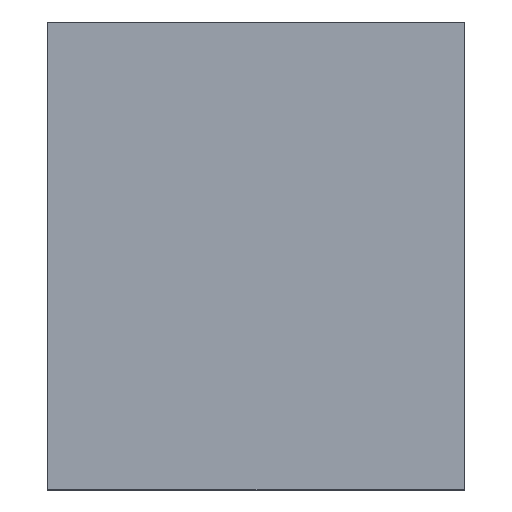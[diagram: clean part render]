
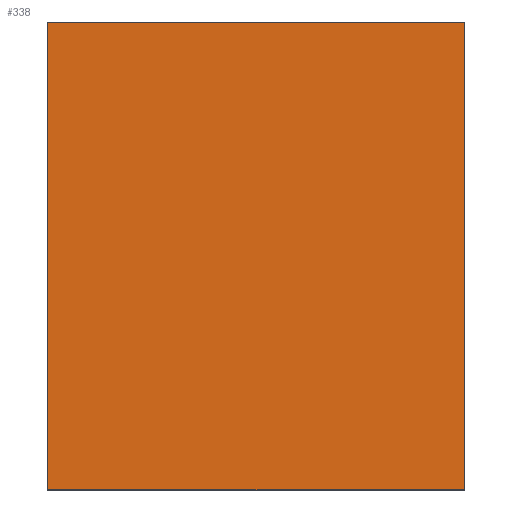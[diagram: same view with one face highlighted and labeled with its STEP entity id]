
A CAD part, top view. The second image highlights one B-rep face of the part: STEP entity #338.
In plain terms, the highlighted planar face has unit normal (0, 0, 1).
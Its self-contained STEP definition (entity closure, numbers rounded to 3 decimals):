
#24 = VERTEX_POINT('',#25);
#25 = CARTESIAN_POINT('',(-643.,-184.913,0.));
#32 = PLANE('',#33);
#33 = AXIS2_PLACEMENT_3D('',#34,#35,#36);
#34 = CARTESIAN_POINT('',(-643.,-184.913,-3.));
#35 = DIRECTION('',(1.,0.,-0.));
#36 = DIRECTION('',(0.,0.,1.));
#44 = PLANE('',#45);
#45 = AXIS2_PLACEMENT_3D('',#46,#47,#48);
#46 = CARTESIAN_POINT('',(-643.,-184.913,-3.));
#47 = DIRECTION('',(-0.,1.,0.));
#48 = DIRECTION('',(0.,0.,1.));
#85 = VERTEX_POINT('',#86);
#86 = CARTESIAN_POINT('',(-643.,-48.913,0.));
#100 = PLANE('',#101);
#101 = AXIS2_PLACEMENT_3D('',#102,#103,#104);
#102 = CARTESIAN_POINT('',(-643.,-48.913,-3.));
#103 = DIRECTION('',(-0.,1.,0.));
#104 = DIRECTION('',(0.,0.,1.));
#112 = EDGE_CURVE('',#24,#85,#113,.T.);
#113 = SURFACE_CURVE('',#114,(#118,#125),.PCURVE_S1.);
#114 = LINE('',#115,#116);
#115 = CARTESIAN_POINT('',(-643.,-184.913,0.));
#116 = VECTOR('',#117,1.);
#117 = DIRECTION('',(-0.,1.,0.));
#118 = PCURVE('',#32,#119);
#119 = DEFINITIONAL_REPRESENTATION('',(#120),#124);
#120 = LINE('',#121,#122);
#121 = CARTESIAN_POINT('',(3.,0.));
#122 = VECTOR('',#123,1.);
#123 = DIRECTION('',(0.,-1.));
#124 = ( GEOMETRIC_REPRESENTATION_CONTEXT(2) 
PARAMETRIC_REPRESENTATION_CONTEXT() REPRESENTATION_CONTEXT('2D SPACE',''
  ) );
#125 = PCURVE('',#126,#131);
#126 = PLANE('',#127);
#127 = AXIS2_PLACEMENT_3D('',#128,#129,#130);
#128 = CARTESIAN_POINT('',(-643.,-184.913,0.));
#129 = DIRECTION('',(0.,0.,1.));
#130 = DIRECTION('',(1.,0.,-0.));
#131 = DEFINITIONAL_REPRESENTATION('',(#132),#136);
#132 = LINE('',#133,#134);
#133 = CARTESIAN_POINT('',(0.,0.));
#134 = VECTOR('',#135,1.);
#135 = DIRECTION('',(0.,1.));
#136 = ( GEOMETRIC_REPRESENTATION_CONTEXT(2) 
PARAMETRIC_REPRESENTATION_CONTEXT() REPRESENTATION_CONTEXT('2D SPACE',''
  ) );
#144 = VERTEX_POINT('',#145);
#145 = CARTESIAN_POINT('',(-522.,-184.913,0.));
#152 = PLANE('',#153);
#153 = AXIS2_PLACEMENT_3D('',#154,#155,#156);
#154 = CARTESIAN_POINT('',(-522.,-184.913,-3.));
#155 = DIRECTION('',(1.,0.,-0.));
#156 = DIRECTION('',(0.,0.,1.));
#195 = VERTEX_POINT('',#196);
#196 = CARTESIAN_POINT('',(-522.,-48.913,0.));
#217 = EDGE_CURVE('',#144,#195,#218,.T.);
#218 = SURFACE_CURVE('',#219,(#223,#230),.PCURVE_S1.);
#219 = LINE('',#220,#221);
#220 = CARTESIAN_POINT('',(-522.,-184.913,0.));
#221 = VECTOR('',#222,1.);
#222 = DIRECTION('',(-0.,1.,0.));
#223 = PCURVE('',#152,#224);
#224 = DEFINITIONAL_REPRESENTATION('',(#225),#229);
#225 = LINE('',#226,#227);
#226 = CARTESIAN_POINT('',(3.,0.));
#227 = VECTOR('',#228,1.);
#228 = DIRECTION('',(0.,-1.));
#229 = ( GEOMETRIC_REPRESENTATION_CONTEXT(2) 
PARAMETRIC_REPRESENTATION_CONTEXT() REPRESENTATION_CONTEXT('2D SPACE',''
  ) );
#230 = PCURVE('',#126,#231);
#231 = DEFINITIONAL_REPRESENTATION('',(#232),#236);
#232 = LINE('',#233,#234);
#233 = CARTESIAN_POINT('',(121.,0.));
#234 = VECTOR('',#235,1.);
#235 = DIRECTION('',(0.,1.));
#236 = ( GEOMETRIC_REPRESENTATION_CONTEXT(2) 
PARAMETRIC_REPRESENTATION_CONTEXT() REPRESENTATION_CONTEXT('2D SPACE',''
  ) );
#263 = EDGE_CURVE('',#24,#144,#264,.T.);
#264 = SURFACE_CURVE('',#265,(#269,#276),.PCURVE_S1.);
#265 = LINE('',#266,#267);
#266 = CARTESIAN_POINT('',(-643.,-184.913,0.));
#267 = VECTOR('',#268,1.);
#268 = DIRECTION('',(1.,0.,-0.));
#269 = PCURVE('',#44,#270);
#270 = DEFINITIONAL_REPRESENTATION('',(#271),#275);
#271 = LINE('',#272,#273);
#272 = CARTESIAN_POINT('',(3.,0.));
#273 = VECTOR('',#274,1.);
#274 = DIRECTION('',(0.,1.));
#275 = ( GEOMETRIC_REPRESENTATION_CONTEXT(2) 
PARAMETRIC_REPRESENTATION_CONTEXT() REPRESENTATION_CONTEXT('2D SPACE',''
  ) );
#276 = PCURVE('',#126,#277);
#277 = DEFINITIONAL_REPRESENTATION('',(#278),#282);
#278 = LINE('',#279,#280);
#279 = CARTESIAN_POINT('',(0.,0.));
#280 = VECTOR('',#281,1.);
#281 = DIRECTION('',(1.,0.));
#282 = ( GEOMETRIC_REPRESENTATION_CONTEXT(2) 
PARAMETRIC_REPRESENTATION_CONTEXT() REPRESENTATION_CONTEXT('2D SPACE',''
  ) );
#310 = EDGE_CURVE('',#85,#195,#311,.T.);
#311 = SURFACE_CURVE('',#312,(#316,#323),.PCURVE_S1.);
#312 = LINE('',#313,#314);
#313 = CARTESIAN_POINT('',(-643.,-48.913,0.));
#314 = VECTOR('',#315,1.);
#315 = DIRECTION('',(1.,0.,-0.));
#316 = PCURVE('',#100,#317);
#317 = DEFINITIONAL_REPRESENTATION('',(#318),#322);
#318 = LINE('',#319,#320);
#319 = CARTESIAN_POINT('',(3.,0.));
#320 = VECTOR('',#321,1.);
#321 = DIRECTION('',(0.,1.));
#322 = ( GEOMETRIC_REPRESENTATION_CONTEXT(2) 
PARAMETRIC_REPRESENTATION_CONTEXT() REPRESENTATION_CONTEXT('2D SPACE',''
  ) );
#323 = PCURVE('',#126,#324);
#324 = DEFINITIONAL_REPRESENTATION('',(#325),#329);
#325 = LINE('',#326,#327);
#326 = CARTESIAN_POINT('',(0.,136.));
#327 = VECTOR('',#328,1.);
#328 = DIRECTION('',(1.,0.));
#329 = ( GEOMETRIC_REPRESENTATION_CONTEXT(2) 
PARAMETRIC_REPRESENTATION_CONTEXT() REPRESENTATION_CONTEXT('2D SPACE',''
  ) );
#338 = ADVANCED_FACE('',(#339),#126,.T.);
#339 = FACE_BOUND('',#340,.T.);
#340 = EDGE_LOOP('',(#341,#342,#343,#344));
#341 = ORIENTED_EDGE('',*,*,#112,.F.);
#342 = ORIENTED_EDGE('',*,*,#263,.T.);
#343 = ORIENTED_EDGE('',*,*,#217,.T.);
#344 = ORIENTED_EDGE('',*,*,#310,.F.);
